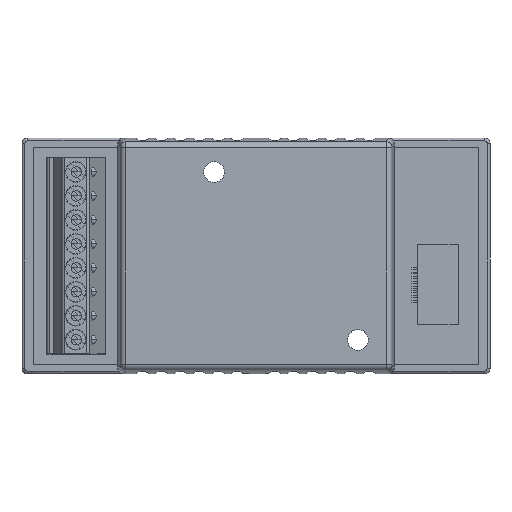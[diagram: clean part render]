
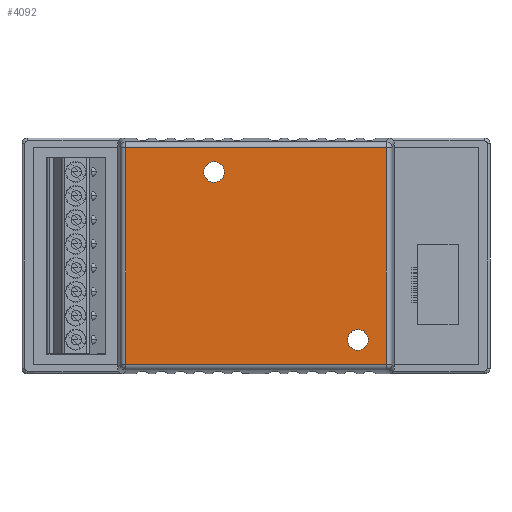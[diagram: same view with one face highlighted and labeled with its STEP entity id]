
A CAD part, top view. The second image highlights one B-rep face of the part: STEP entity #4092.
In plain terms, the highlighted planar face has unit normal (0, 0, 1).
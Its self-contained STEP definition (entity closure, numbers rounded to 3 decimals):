
#3241=CIRCLE('',#11570,1.1);
#3242=CIRCLE('',#11571,1.1);
#4092=ADVANCED_FACE('',(#4944,#4945,#4946),#4609,.T.);
#4609=PLANE('',#11572);
#4944=FACE_BOUND('',#5060,.T.);
#4945=FACE_BOUND('',#5061,.T.);
#4946=FACE_BOUND('',#5062,.T.);
#5060=EDGE_LOOP('',(#7264,#7265,#7266,#7267));
#5061=EDGE_LOOP('',(#7268));
#5062=EDGE_LOOP('',(#7269));
#5702=LINE('',#15192,#6465);
#5703=LINE('',#15195,#6466);
#5704=LINE('',#15197,#6467);
#5705=LINE('',#15199,#6468);
#6465=VECTOR('',#12515,1.);
#6466=VECTOR('',#12516,1.);
#6467=VECTOR('',#12517,1.);
#6468=VECTOR('',#12518,1.);
#7264=ORIENTED_EDGE('',*,*,#10382,.T.);
#7265=ORIENTED_EDGE('',*,*,#10383,.T.);
#7266=ORIENTED_EDGE('',*,*,#10384,.T.);
#7267=ORIENTED_EDGE('',*,*,#10385,.T.);
#7268=ORIENTED_EDGE('',*,*,#10386,.T.);
#7269=ORIENTED_EDGE('',*,*,#10387,.T.);
#9626=VERTEX_POINT('',#15193);
#9627=VERTEX_POINT('',#15194);
#9628=VERTEX_POINT('',#15196);
#9629=VERTEX_POINT('',#15198);
#9630=VERTEX_POINT('',#15201);
#9631=VERTEX_POINT('',#15203);
#10382=EDGE_CURVE('',#9626,#9627,#5702,.T.);
#10383=EDGE_CURVE('',#9627,#9628,#5703,.T.);
#10384=EDGE_CURVE('',#9628,#9629,#5704,.T.);
#10385=EDGE_CURVE('',#9629,#9626,#5705,.T.);
#10386=EDGE_CURVE('',#9630,#9630,#3241,.T.);
#10387=EDGE_CURVE('',#9631,#9631,#3242,.T.);
#11570=AXIS2_PLACEMENT_3D('',#15200,#12519,#12520);
#11571=AXIS2_PLACEMENT_3D('',#15202,#12521,#12522);
#11572=AXIS2_PLACEMENT_3D('',#15204,#12523,#12524);
#12515=DIRECTION('',(-1.,0.,0.));
#12516=DIRECTION('',(0.,-1.,0.));
#12517=DIRECTION('',(1.,0.,0.));
#12518=DIRECTION('',(0.,1.,0.));
#12519=DIRECTION('',(0.,0.,-1.));
#12520=DIRECTION('',(-1.,0.,0.));
#12521=DIRECTION('',(0.,0.,-1.));
#12522=DIRECTION('',(-1.,0.,0.));
#12523=DIRECTION('',(0.,0.,1.));
#12524=DIRECTION('',(1.,0.,0.));
#15192=CARTESIAN_POINT('',(0.,11.493,8.));
#15193=CARTESIAN_POINT('',(13.803,11.493,8.));
#15194=CARTESIAN_POINT('',(-13.803,11.493,8.));
#15195=CARTESIAN_POINT('',(-13.803,-11.348,8.));
#15196=CARTESIAN_POINT('',(-13.803,-11.493,8.));
#15197=CARTESIAN_POINT('',(0.,-11.493,8.));
#15198=CARTESIAN_POINT('',(13.803,-11.493,8.));
#15199=CARTESIAN_POINT('',(13.803,11.348,8.));
#15200=CARTESIAN_POINT('',(10.8,-8.89,8.));
#15201=CARTESIAN_POINT('',(9.7,-8.89,8.));
#15202=CARTESIAN_POINT('',(-4.44,8.89,8.));
#15203=CARTESIAN_POINT('',(-5.54,8.89,8.));
#15204=CARTESIAN_POINT('',(0.,0.,8.));
